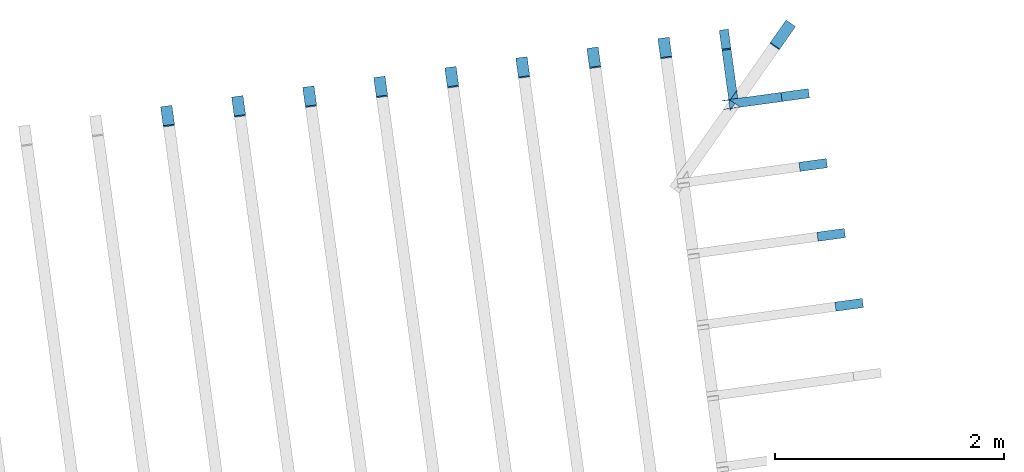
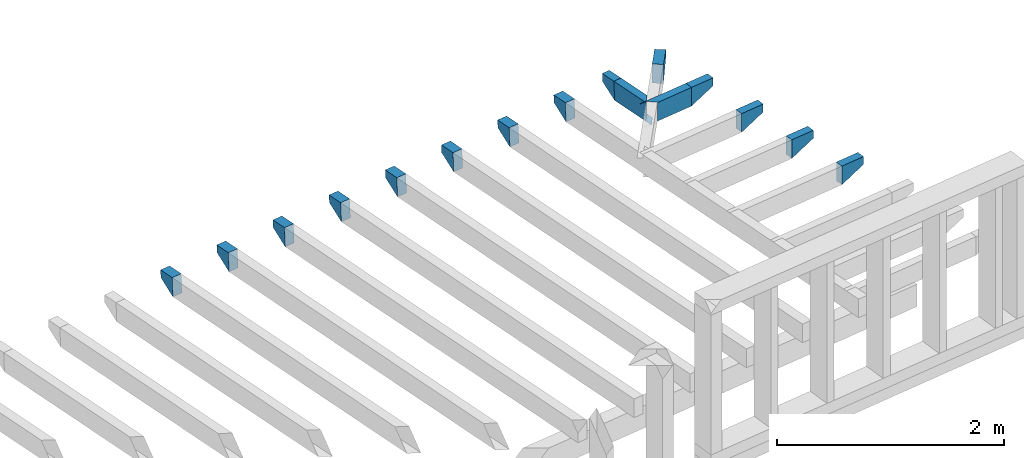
# One storey, part 16 of 16: 16 building element parts, 14 elements without a shape of their own.
"""IFC2X3 building model written with IfcOpenShell, lengths in metres."""

from ifc_helpers import new_model, entity, si_unit, converted_unit, derived_unit, money_unit, direction, frame, origin_with_axes, place, context, subcontext, project, spatial, faceted_brep, material, type_object, element, aggregate, save


model = new_model("IFC2X3")

# Units and contexts
model_context = context("Model", 3, precision=1e-05, world=origin_with_axes(), true_north=direction((0.0, 1.0)))
body_context = subcontext(model_context, "Body", "Model", "MODEL_VIEW")
ifc_project = project(units=[si_unit("LENGTHUNIT", "METRE"), si_unit("AREAUNIT", "SQUARE_METRE"), si_unit("VOLUMEUNIT", "CUBIC_METRE"), converted_unit("PLANEANGLEUNIT", "DEGREE", entity("IfcPlaneAngleMeasure", 0.0174532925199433), si_unit("PLANEANGLEUNIT", "RADIAN"), dimensions=[0, 0, 0, 0, 0, 0, 0]), money_unit("EUR"), converted_unit("TIMEUNIT", "Year", entity("IfcTimeMeasure", 31557600.0), si_unit("TIMEUNIT", "SECOND"), dimensions=[0, 0, 1, 0, 0, 0, 0]), si_unit("MASSUNIT", "GRAM", prefix="KILO"), si_unit("THERMODYNAMICTEMPERATUREUNIT", "DEGREE_CELSIUS"), si_unit("LUMINOUSINTENSITYUNIT", "LUMEN"), si_unit("ENERGYUNIT", "JOULE", prefix="MEGA"), derived_unit("THERMALCONDUCTANCEUNIT", [(si_unit("POWERUNIT", "WATT"), 1), (si_unit("LENGTHUNIT", "METRE"), -1), (si_unit("THERMODYNAMICTEMPERATUREUNIT", "KELVIN"), -1)]), derived_unit("SPECIFICHEATCAPACITYUNIT", [(si_unit("ENERGYUNIT", "JOULE"), 1), (si_unit("MASSUNIT", "GRAM", prefix="KILO"), -1), (si_unit("THERMODYNAMICTEMPERATUREUNIT", "KELVIN"), -1)]), derived_unit("MASSDENSITYUNIT", [(si_unit("MASSUNIT", "GRAM", prefix="KILO"), 1), (si_unit("VOLUMEUNIT", "CUBIC_METRE"), -1)])], contexts=[model_context])

# Site, building, storey
site_placement = place(None, origin_with_axes())
site = spatial("IfcSite", under=ifc_project, at=site_placement, Name="Gelände", CompositionType="ELEMENT")
building_placement = place(site_placement, origin_with_axes())
building = spatial("IfcBuilding", under=site, at=building_placement, Name="Gebäude", CompositionType="ELEMENT")
storey_placement = place(building_placement, frame((0.0, 0.0, 3.0), z_axis=(0.0, 0.0, 1.0), x_axis=(1.0, 0.0, 0.0)))
storey = spatial("IfcBuildingStorey", under=building, at=storey_placement, Name="ZG", CompositionType="ELEMENT", Elevation=3.0)

# Beam, building element part
beam_type_1 = type_object("IfcBeamType", Name="Verschiedene Strukturen - 2 Segmente - 100 x 200 x 4381 (4214+167)", PredefinedType="NOTDEFINED")
beam_1_placement = place(storey_placement, frame((105.4752421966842, -132.7978170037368, 1.028226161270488), z_axis=(0.0, 0.0, 1.0), x_axis=(0.9907484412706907, 0.1357111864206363, 0.0)))
beam_1 = element("IfcBeam", 1, at=beam_1_placement, inside=storey, type_object=beam_type_1, Name="Unterzug-034")
ifc_material = material(Name="Holz, Bauholz-hart")
building_element_part_1_placement = place(beam_1_placement, origin_with_axes())
building_element_part_1 = element("IfcBuildingElementPart", 2, at=building_element_part_1_placement, material=ifc_material, Name="Holz, Bauholz-hart", context=body_context, shape_type="Brep", body=[
    faceted_brep([(0.04999999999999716, 4.370583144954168, -0.3091623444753), (0.05000000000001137, 4.197525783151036, -0.4202574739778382), (-0.05000000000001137, 4.197525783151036, -0.4202574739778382), (-0.04999999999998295, 4.370583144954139, -0.3091623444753), (0.05000000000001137, 4.374770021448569, -0.2292719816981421), (0.05000000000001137, 4.207992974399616, -0.2205315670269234), (-0.04999999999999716, 4.207992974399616, -0.2205315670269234), (-0.04999999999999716, 4.374770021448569, -0.2292719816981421)], [[[0, 1, 2, 3]], [[4, 5, 1, 0]], [[5, 6, 2, 1]], [[3, 2, 6, 7]], [[4, 0, 3, 7]], [[7, 6, 5, 4]]]),
])
aggregate(beam_1, [building_element_part_1])

beam_2_placement = place(storey_placement, frame((106.0944599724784, -132.7129975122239, 1.028226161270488), z_axis=(0.0, 0.0, 1.0), x_axis=(0.9907484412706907, 0.1357111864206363, 0.0)))
beam_2 = element("IfcBeam", 3, at=beam_2_placement, inside=storey, type_object=beam_type_1, Name="Unterzug-034")
building_element_part_2_placement = place(beam_2_placement, origin_with_axes())
building_element_part_2 = element("IfcBuildingElementPart", 4, at=building_element_part_2_placement, material=ifc_material, Name="Holz, Bauholz-hart", context=body_context, shape_type="Brep", body=[
    faceted_brep([(0.05000000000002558, 4.370583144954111, -0.3091623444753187), (0.04999999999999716, 4.197525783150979, -0.4202574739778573), (-0.04999999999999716, 4.197525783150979, -0.4202574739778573), (-0.04999999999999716, 4.370583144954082, -0.3091623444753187), (0.04999999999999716, 4.374770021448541, -0.2292719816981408), (0.05000000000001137, 4.207992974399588, -0.2205315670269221), (-0.04999999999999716, 4.207992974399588, -0.2205315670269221), (-0.04999999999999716, 4.374770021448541, -0.2292719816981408)], [[[0, 1, 2, 3]], [[4, 5, 1, 0]], [[5, 6, 2, 1]], [[3, 2, 6, 7]], [[4, 0, 3, 7]], [[7, 6, 5, 4]]]),
])
aggregate(beam_2, [building_element_part_2])

beam_3_placement = place(storey_placement, frame((106.7136777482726, -132.628178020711, 1.028226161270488), z_axis=(0.0, 0.0, 1.0), x_axis=(0.9907484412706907, 0.1357111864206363, 0.0)))
beam_3 = element("IfcBeam", 5, at=beam_3_placement, inside=storey, type_object=beam_type_1, Name="Unterzug-034")
building_element_part_3_placement = place(beam_3_placement, origin_with_axes())
building_element_part_3 = element("IfcBuildingElementPart", 6, at=building_element_part_3_placement, material=ifc_material, Name="Holz, Bauholz-hart", context=body_context, shape_type="Brep", body=[
    faceted_brep([(0.05000000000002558, 4.370583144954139, -0.3091623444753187), (0.05000000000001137, 4.197525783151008, -0.4202574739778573), (-0.04999999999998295, 4.197525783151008, -0.4202574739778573), (-0.04999999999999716, 4.370583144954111, -0.3091623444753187), (0.05000000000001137, 4.374770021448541, -0.2292719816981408), (0.05000000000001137, 4.207992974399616, -0.2205315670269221), (-0.04999999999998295, 4.207992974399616, -0.2205315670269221), (-0.04999999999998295, 4.374770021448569, -0.2292719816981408)], [[[0, 1, 2, 3]], [[4, 5, 1, 0]], [[5, 6, 2, 1]], [[3, 2, 6, 7]], [[4, 0, 3, 7]], [[7, 6, 5, 4]]]),
])
aggregate(beam_3, [building_element_part_3])

beam_4_placement = place(storey_placement, frame((107.3328955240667, -132.5433585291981, 1.028226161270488), z_axis=(0.0, 0.0, 1.0), x_axis=(0.9907484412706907, 0.1357111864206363, 0.0)))
beam_4 = element("IfcBeam", 7, at=beam_4_placement, inside=storey, type_object=beam_type_1, Name="Unterzug-034")
building_element_part_4_placement = place(beam_4_placement, origin_with_axes())
building_element_part_4 = element("IfcBuildingElementPart", 8, at=building_element_part_4_placement, material=ifc_material, Name="Holz, Bauholz-hart", context=body_context, shape_type="Brep", body=[
    faceted_brep([(0.05000000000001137, 4.370583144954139, -0.3091623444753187), (0.05000000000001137, 4.197525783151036, -0.4202574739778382), (-0.04999999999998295, 4.197525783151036, -0.4202574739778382), (-0.04999999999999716, 4.370583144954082, -0.3091623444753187), (0.05000000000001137, 4.374770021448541, -0.2292719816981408), (0.05000000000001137, 4.207992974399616, -0.2205315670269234), (-0.04999999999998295, 4.207992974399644, -0.2205315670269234), (-0.04999999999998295, 4.374770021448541, -0.2292719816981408)], [[[0, 1, 2, 3]], [[4, 5, 1, 0]], [[5, 6, 2, 1]], [[3, 2, 6, 7]], [[4, 0, 3, 7]], [[7, 6, 5, 4]]]),
])
aggregate(beam_4, [building_element_part_4])

beam_5_placement = place(storey_placement, frame((107.9521132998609, -132.4585390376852, 1.028226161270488), z_axis=(0.0, 0.0, 1.0), x_axis=(0.9907484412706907, 0.1357111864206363, 0.0)))
beam_5 = element("IfcBeam", 9, at=beam_5_placement, inside=storey, type_object=beam_type_1, Name="Unterzug-034")
building_element_part_5_placement = place(beam_5_placement, origin_with_axes())
building_element_part_5 = element("IfcBuildingElementPart", 10, at=building_element_part_5_placement, material=ifc_material, Name="Holz, Bauholz-hart", context=body_context, shape_type="Brep", body=[
    faceted_brep([(0.05000000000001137, 4.370583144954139, -0.3091623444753), (0.05000000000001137, 4.197525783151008, -0.4202574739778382), (-0.04999999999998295, 4.197525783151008, -0.4202574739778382), (-0.04999999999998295, 4.370583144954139, -0.3091623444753), (0.05000000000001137, 4.374770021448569, -0.2292719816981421), (0.05000000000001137, 4.207992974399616, -0.2205315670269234), (-0.04999999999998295, 4.207992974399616, -0.2205315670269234), (-0.04999999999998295, 4.374770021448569, -0.2292719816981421)], [[[0, 1, 2, 3]], [[4, 5, 1, 0]], [[5, 6, 2, 1]], [[3, 2, 6, 7]], [[4, 0, 3, 7]], [[7, 6, 5, 4]]]),
])
aggregate(beam_5, [building_element_part_5])

beam_6_placement = place(storey_placement, frame((108.5713310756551, -132.3737195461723, 1.028226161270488), z_axis=(0.0, 0.0, 1.0), x_axis=(0.9907484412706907, 0.1357111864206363, 0.0)))
beam_6 = element("IfcBeam", 11, at=beam_6_placement, inside=storey, type_object=beam_type_1, Name="Unterzug-034")
building_element_part_6_placement = place(beam_6_placement, origin_with_axes())
building_element_part_6 = element("IfcBuildingElementPart", 12, at=building_element_part_6_placement, material=ifc_material, Name="Holz, Bauholz-hart", context=body_context, shape_type="Brep", body=[
    faceted_brep([(0.04999999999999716, 4.370583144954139, -0.3091623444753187), (0.04999999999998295, 4.197525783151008, -0.4202574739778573), (-0.05000000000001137, 4.197525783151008, -0.4202574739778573), (-0.05000000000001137, 4.370583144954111, -0.3091623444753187), (0.04999999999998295, 4.374770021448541, -0.2292719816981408), (0.04999999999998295, 4.207992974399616, -0.2205315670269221), (-0.05000000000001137, 4.207992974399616, -0.2205315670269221), (-0.05000000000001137, 4.374770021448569, -0.2292719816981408)], [[[0, 1, 2, 3]], [[4, 5, 1, 0]], [[5, 6, 2, 1]], [[3, 2, 6, 7]], [[4, 0, 3, 7]], [[7, 6, 5, 4]]]),
])
aggregate(beam_6, [building_element_part_6])

beam_7_placement = place(storey_placement, frame((109.1905488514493, -132.2889000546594, 1.028226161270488), z_axis=(0.0, 0.0, 1.0), x_axis=(0.9907484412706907, 0.1357111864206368, 0.0)))
beam_7 = element("IfcBeam", 13, at=beam_7_placement, inside=storey, type_object=beam_type_1, Name="Unterzug-034")
building_element_part_7_placement = place(beam_7_placement, origin_with_axes())
building_element_part_7 = element("IfcBuildingElementPart", 14, at=building_element_part_7_placement, material=ifc_material, Name="Holz, Bauholz-hart", context=body_context, shape_type="Brep", body=[
    faceted_brep([(0.05000000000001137, 4.370583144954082, -0.3091623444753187), (0.04999999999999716, 4.197525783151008, -0.4202574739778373), (-0.05000000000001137, 4.197525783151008, -0.4202574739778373), (-0.05000000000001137, 4.370583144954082, -0.3091623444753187), (0.04999999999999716, 4.374770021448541, -0.2292719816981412), (0.04999999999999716, 4.207992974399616, -0.220531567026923), (-0.05000000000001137, 4.207992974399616, -0.220531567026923), (-0.04999999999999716, 4.374770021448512, -0.2292719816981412)], [[[0, 1, 2, 3]], [[4, 5, 1, 0]], [[5, 6, 2, 1]], [[3, 2, 6, 7]], [[4, 0, 3, 7]], [[7, 6, 5, 4]]]),
])
aggregate(beam_7, [building_element_part_7])

beam_type_2 = type_object("IfcBeamType", Name="Verschiedene Strukturen - 2 Segmente - 80 x 200 x 1458 (1218+240)", PredefinedType="NOTDEFINED")
beam_8_placement = place(storey_placement, frame((109.5586230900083, -130.3706276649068, 0.9312416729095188), z_axis=(0.0, 0.0, 1.0), x_axis=(0.1357111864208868, -0.9907484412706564, 0.0)))
beam_8 = element("IfcBeam", 15, at=beam_8_placement, inside=storey, type_object=beam_type_2, Name="Unterzug-034")
building_element_part_8_placement = place(beam_8_placement, origin_with_axes())
building_element_part_8 = element("IfcBuildingElementPart", 16, at=building_element_part_8_placement, material=ifc_material, Name="Holz, Bauholz-hart", context=body_context, shape_type="Brep", body=[
    faceted_brep([(-0.04000000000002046, 1.407600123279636, 0.0), (-0.04000000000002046, 1.167600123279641, 0.0), (0.04000000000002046, 1.167600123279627, 0.0), (0.03999999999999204, 1.407600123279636, 0.0), (-0.04000000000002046, 1.407600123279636, -0.08500000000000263), (-0.04000000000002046, 1.167600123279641, -0.2000000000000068), (0.04000000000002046, 1.167600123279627, -0.2000000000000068), (0.03999999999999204, 1.407600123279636, -0.08500000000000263)], [[[0, 1, 2, 3]], [[4, 5, 1, 0]], [[5, 6, 2, 1]], [[3, 2, 6, 7]], [[4, 0, 3, 7]], [[7, 6, 5, 4]]]),
])
aggregate(beam_8, [building_element_part_8])

beam_type_3 = type_object("IfcBeamType", Name="Verschiedene Strukturen - 2 Segmente - 80 x 200 x 1385 (1145+240)", PredefinedType="NOTDEFINED")
beam_9_placement = place(storey_placement, frame((109.4738035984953, -129.7514098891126, 0.8984868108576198), z_axis=(0.0, 0.0, 1.0), x_axis=(0.1357111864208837, -0.990748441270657, 0.0)))
beam_9 = element("IfcBeam", 17, at=beam_9_placement, inside=storey, type_object=beam_type_3, Name="Unterzug-034")
building_element_part_9_placement = place(beam_9_placement, origin_with_axes())
building_element_part_9 = element("IfcBuildingElementPart", 18, at=building_element_part_9_placement, material=ifc_material, Name="Holz, Bauholz-hart", context=body_context, shape_type="Brep", body=[
    faceted_brep([(-0.03999999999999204, 1.334925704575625, 0.0), (-0.03999999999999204, 1.094925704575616, 0.0), (0.03999999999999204, 1.094925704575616, 0.0), (0.03999999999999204, 1.334925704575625, 0.0), (-0.03999999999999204, 1.334925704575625, -0.08500000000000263), (-0.03999999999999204, 1.094925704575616, -0.2000000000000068), (0.03999999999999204, 1.094925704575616, -0.2000000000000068), (0.03999999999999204, 1.334925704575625, -0.08500000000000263)], [[[0, 1, 2, 3]], [[4, 5, 1, 0]], [[5, 6, 2, 1]], [[3, 2, 6, 7]], [[4, 0, 3, 7]], [[7, 6, 5, 4]]]),
])
aggregate(beam_9, [building_element_part_9])

beam_type_4 = type_object("IfcBeamType", Name="Verschiedene Strukturen - 2 Segmente - 80 x 200 x 1312 (1072+240)", PredefinedType="NOTDEFINED")
beam_10_placement = place(storey_placement, frame((109.3889841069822, -129.1321921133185, 0.865731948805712), z_axis=(0.0, 0.0, 1.0), x_axis=(0.1357111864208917, -0.9907484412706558, 0.0)))
beam_10 = element("IfcBeam", 19, at=beam_10_placement, inside=storey, type_object=beam_type_4, Name="Unterzug-034")
building_element_part_10_placement = place(beam_10_placement, origin_with_axes())
building_element_part_10 = element("IfcBuildingElementPart", 20, at=building_element_part_10_placement, material=ifc_material, Name="Holz, Bauholz-hart", context=body_context, shape_type="Brep", body=[
    faceted_brep([(-0.04000000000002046, 1.262251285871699, 0.0), (-0.04000000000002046, 1.022251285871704, 0.0), (0.03999999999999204, 1.022251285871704, 0.0), (0.03999999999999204, 1.262251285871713, 0.0), (-0.04000000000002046, 1.262251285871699, -0.08500000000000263), (-0.04000000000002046, 1.022251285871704, -0.2000000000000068), (0.03999999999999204, 1.022251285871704, -0.2000000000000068), (0.03999999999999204, 1.262251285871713, -0.08500000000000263)], [[[0, 1, 2, 3]], [[4, 5, 1, 0]], [[5, 6, 2, 1]], [[3, 2, 6, 7]], [[4, 0, 3, 7]], [[7, 6, 5, 4]]]),
])
aggregate(beam_10, [building_element_part_10])

# Beam, building element parts
beam_type_5 = type_object("IfcBeamType", Name="Verschiedene Strukturen - 2 Segmente - 80 x 200 x 757 (517+240)", PredefinedType="NOTDEFINED")
beam_11_placement = place(storey_placement, frame((109.8365937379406, -128.4400430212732, 0.8329771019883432), z_axis=(0.0, 0.0, 1.0), x_axis=(0.135711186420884, -0.9907484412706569, 0.0)))
beam_11 = element("IfcBeam", 21, at=beam_11_placement, inside=storey, type_object=beam_type_5, Name="Unterzug-034")
building_element_part_11_placement = place(beam_11_placement, origin_with_axes())
building_element_part_11 = element("IfcBuildingElementPart", 22, at=building_element_part_11_placement, material=ifc_material, Name="Holz, Bauholz-hart", context=body_context, shape_type="Brep", body=[
    faceted_brep([(-0.04000000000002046, 0.1052414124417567, -0.2000000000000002), (-0.03999999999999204, 0.1052414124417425, -0.003877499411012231), (-0.03999999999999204, -0.03109994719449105, -0.0003151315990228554), (-0.04000000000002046, -0.1052412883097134, -0.0003151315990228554), (-0.04000000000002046, -0.1052412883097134, 0.0), (-0.03999999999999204, 0.4121759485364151, 0.0), (-0.03999999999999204, 0.4121759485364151, -0.2000000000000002), (0.03999999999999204, 0.03110007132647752, -0.1998325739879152), (0.03999999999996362, 0.03110007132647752, 0.0), (0.03398706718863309, 0.03667265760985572, 0.0), (0.03680532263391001, 0.03406079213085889, -0.2000000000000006), (-0.03398693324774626, -0.03667265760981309, 0.0), (-0.03398693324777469, -0.1052412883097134, 0.0), (0.03999999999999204, 0.4121759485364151, 0.0), (0.03999999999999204, 0.4121759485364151, -0.2000000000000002), (0.03680532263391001, -0.1052412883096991, -0.2000000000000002), (0.03999999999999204, -0.1052412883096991, -0.2000000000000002), (0.03999999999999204, -0.1052412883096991, -0.1998325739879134)], [[[0, 1, 2, 3, 4, 5, 6]], [[7, 8, 9, 1, 0, 10]], [[9, 11, 2, 1]], [[3, 2, 11, 12]], [[3, 12, 4]], [[9, 8, 13, 5, 4, 12, 11]], [[13, 14, 6, 5]], [[15, 10, 0, 6, 14, 16]], [[8, 7, 17, 16, 14, 13]], [[17, 7, 10, 15]], [[17, 15, 16]]]),
])
building_element_part_12_placement = place(beam_11_placement, origin_with_axes())
building_element_part_12 = element("IfcBuildingElementPart", 23, at=building_element_part_12_placement, material=ifc_material, Name="Holz, Bauholz-hart", context=body_context, shape_type="Brep", body=[
    faceted_brep([(-0.04000000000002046, 0.6521759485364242, 0.0), (-0.03999999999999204, 0.4121759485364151, 0.0), (0.03999999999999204, 0.4121759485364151, 0.0), (0.03999999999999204, 0.6521759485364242, 0.0), (-0.04000000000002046, 0.6521759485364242, -0.08499999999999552), (-0.03999999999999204, 0.4121759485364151, -0.2000000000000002), (0.03999999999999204, 0.4121759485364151, -0.2000000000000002), (0.03999999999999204, 0.6521759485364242, -0.08499999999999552)], [[[0, 1, 2, 3]], [[4, 5, 1, 0]], [[5, 6, 2, 1]], [[3, 2, 6, 7]], [[4, 0, 3, 7]], [[7, 6, 5, 4]]]),
])
aggregate(beam_11, [building_element_part_11, building_element_part_12])

beam_type_6 = type_object("IfcBeamType", Name="Verschiedene Strukturen - 2 Segmente - 80 x 200 x 696 (529+167)", PredefinedType="NOTDEFINED")
beam_12_placement = place(storey_placement, frame((109.830345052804, -128.4489593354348, 0.8333956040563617), z_axis=(0.0, 0.0, 1.0), x_axis=(0.9907484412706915, 0.1357111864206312, 0.0)))
beam_12 = element("IfcBeam", 24, at=beam_12_placement, inside=storey, type_object=beam_type_6, Name="Unterzug-034")
building_element_part_13_placement = place(beam_12_placement, origin_with_axes())
building_element_part_13 = element("IfcBuildingElementPart", 25, at=building_element_part_13_placement, material=ifc_material, Name="Holz, Bauholz-hart", context=body_context, shape_type="Brep", body=[
    faceted_brep([(0.03999999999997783, 0.4904051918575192, -0.02570104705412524), (0.03999999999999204, 0.1167183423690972, -0.006116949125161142), (0.03999999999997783, 0.1167183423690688, -0.2044834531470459), (0.03999999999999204, 0.03792505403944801, -0.2022620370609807), (0.03999999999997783, 0.4799380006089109, -0.22542695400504), (-0.04000000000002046, 0.4904051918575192, -0.02570104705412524), (-0.04000000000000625, 0.03039673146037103, -0.001593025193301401), (-0.03999999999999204, 0.03039673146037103, -0.1999595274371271), (-0.04000000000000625, -0.04839663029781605, -0.1977381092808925), (-0.04000000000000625, 0.4799380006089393, -0.22542695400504)], [[[0, 1, 2, 3, 4]], [[5, 6, 1, 0]], [[7, 2, 1, 6]], [[7, 8, 3, 2]], [[4, 3, 8, 9]], [[5, 0, 4, 9]], [[8, 7, 6, 5, 9]]]),
])
building_element_part_14_placement = place(beam_12_placement, origin_with_axes())
building_element_part_14 = element("IfcBuildingElementPart", 26, at=building_element_part_14_placement, material=ifc_material, Name="Holz, Bauholz-hart", context=body_context, shape_type="Brep", body=[
    faceted_brep([(0.03999999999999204, 0.6527336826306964, -0.1193249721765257), (0.03999999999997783, 0.4799380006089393, -0.2254269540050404), (-0.04000000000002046, 0.4799380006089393, -0.2254269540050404), (-0.04000000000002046, 0.6527336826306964, -0.1193249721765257), (0.03999999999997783, 0.6571822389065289, -0.03444146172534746), (0.03999999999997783, 0.4904051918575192, -0.02570104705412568), (-0.04000000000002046, 0.4904051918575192, -0.02570104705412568), (-0.04000000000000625, 0.6571822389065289, -0.03444146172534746)], [[[0, 1, 2, 3]], [[4, 5, 1, 0]], [[5, 6, 2, 1]], [[3, 2, 6, 7]], [[4, 0, 3, 7]], [[7, 6, 5, 4]]]),
])
aggregate(beam_12, [building_element_part_13, building_element_part_14])

# Beam, building element part
beam_13_placement = place(storey_placement, frame((109.8097666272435, -132.2040805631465, 1.028226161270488), z_axis=(0.0, 0.0, 1.0), x_axis=(0.9907484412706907, 0.1357111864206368, 0.0)))
beam_13 = element("IfcBeam", 27, at=beam_13_placement, inside=storey, type_object=beam_type_1, Name="Unterzug-034")
building_element_part_15_placement = place(beam_13_placement, origin_with_axes())
building_element_part_15 = element("IfcBuildingElementPart", 28, at=building_element_part_15_placement, material=ifc_material, Name="Holz, Bauholz-hart", context=body_context, shape_type="Brep", body=[
    faceted_brep([(0.05000000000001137, 4.370583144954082, -0.3091623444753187), (0.05000000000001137, 4.197525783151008, -0.4202574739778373), (-0.04999999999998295, 4.197525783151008, -0.4202574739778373), (-0.04999999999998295, 4.370583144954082, -0.3091623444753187), (0.05000000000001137, 4.374770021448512, -0.2292719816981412), (0.05000000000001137, 4.207992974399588, -0.220531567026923), (-0.04999999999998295, 4.207992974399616, -0.220531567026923), (-0.04999999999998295, 4.374770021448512, -0.2292719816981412)], [[[0, 1, 2, 3]], [[4, 5, 1, 0]], [[5, 6, 2, 1]], [[3, 2, 6, 7]], [[4, 0, 3, 7]], [[7, 6, 5, 4]]]),
])
aggregate(beam_13, [building_element_part_15])

beam_type_7 = type_object("IfcBeamType", Name="Verschiedene Strukturen - 2 Segmente - 100 x 200 x 1775 (1532+243)", PredefinedType="NOTDEFINED")
beam_14_placement = place(storey_placement, frame((109.3828589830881, -129.087476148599, 0.8633666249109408), z_axis=(0.0, 0.0, 1.0), x_axis=(0.818915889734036, -0.5739135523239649, 0.0)))
beam_14 = element("IfcBeam", 29, at=beam_14_placement, inside=storey, type_object=beam_type_7, Name="Unterzug-034")
building_element_part_16_placement = place(beam_14_placement, origin_with_axes())
building_element_part_16 = element("IfcBuildingElementPart", 30, at=building_element_part_16_placement, material=ifc_material, Name="Holz, Bauholz-hart", context=body_context, shape_type="Brep", body=[
    faceted_brep([(-0.04999999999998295, 1.643087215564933, -0.06315808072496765), (-0.04999999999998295, 1.403264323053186, -0.05393960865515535), (0.05000000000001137, 1.403264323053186, -0.05393960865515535), (0.05000000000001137, 1.643087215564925, -0.06315808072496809), (-0.04999999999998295, 1.643087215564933, -0.1417074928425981), (-0.05000000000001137, 1.395582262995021, -0.2537920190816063), (0.05000000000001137, 1.395582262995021, -0.2537920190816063), (0.05000000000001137, 1.643087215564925, -0.1417074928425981)], [[[0, 1, 2, 3]], [[4, 5, 1, 0]], [[5, 6, 2, 1]], [[3, 2, 6, 7]], [[4, 0, 3, 7]], [[7, 6, 5, 4]]]),
])
aggregate(beam_14, [building_element_part_16])

save(model, "model.ifc")
